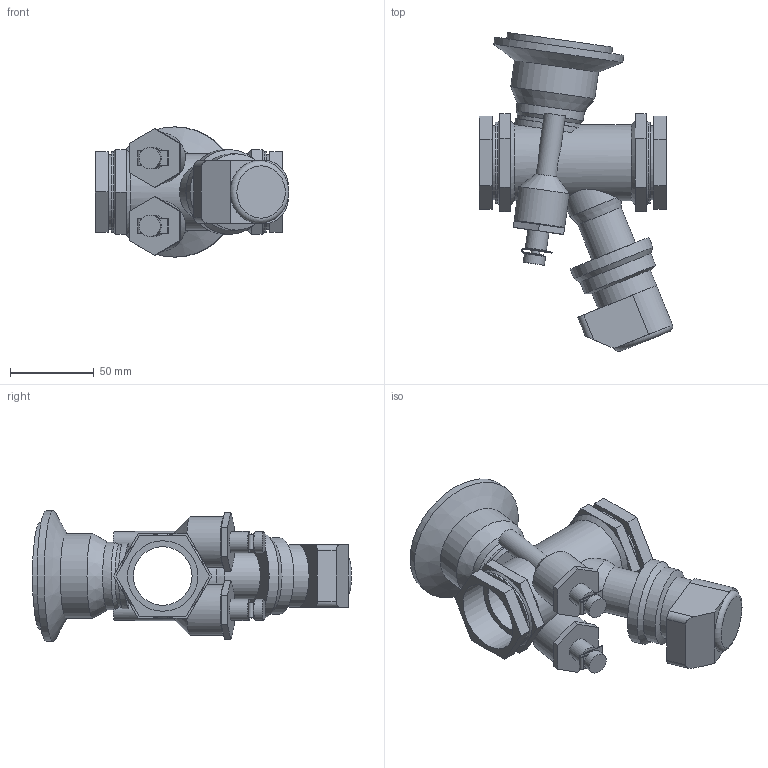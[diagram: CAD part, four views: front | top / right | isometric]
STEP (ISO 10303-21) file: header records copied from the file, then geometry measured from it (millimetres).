
FILE_DESCRIPTION(/* description */ ('VIC BALANCING AND CONTROL VALVE SERIES 7CP (FPT)-EMO 3','CAx-IF Rec.Pracs.---Representation and Presentation of Product Manufacturing Information (PMI)---4.0---2014-10-13'),/* implementation_level */ '2;1');
FILE_NAME(/* name */ 'C:\Users\Vjadhav\AppData\Roaming\Autodesk\ApplicationPlugins\Victaulic.Temp\A633\Victaulic_IPS_Valve Balancing Pressure Independent_TA Series 7CP (FPT)_EMO 3_1.25 (32).stp',/* time_stamp */ '2021-09-14T20:04:14+06:00',/* author */ ('Vjadhav'),/* organization */ ('Victaulic'),/* preprocessor_version */ 'ST-DEVELOPER v17.2',/* originating_system */ 'Autodesk Inventor 2019',/* authorisation */ '');
FILE_SCHEMA (('AP242_MANAGED_MODEL_BASED_3D_ENGINEERING_MIM_LF { 1 0 10303 442 1 1 4 }'));
Length unit declared in the file: inch
Products named in the file (2): 7CP_EMO 3-01.25; 7CP-01.25
Assembly tree (1 placements, depth 2):
  7CP_EMO 3-01.25
    7CP-01.25
Bounding box: 115.7 x 191 x 77.98 mm (x, y, z)
Volume: 323758.7 mm3; surface area: 79309.8 mm2
Topology: 1 solids, 1 shells, 180 faces, 462 edges, 306 vertices
Faces by surface type: plane 118, cylinder 48, cone 13, torus 1
Full cylindrical faces by diameter (mm): 5.08 x6, 12.7 x8, 27.889 x1, 30.48 x2, 35.052 x2, 37.631 x1, 40.64 x1, 42.164 x3, 44.45 x2, 45.72 x2, 48.26 x2, 50.8 x2, 63.5 x1, 77.978 x1
Entity records: 6082 total; most frequent: CARTESIAN_POINT 1233, DIRECTION 997, ORIENTED_EDGE 924, EDGE_CURVE 462, AXIS2_PLACEMENT_3D 373, VERTEX_POINT 306, LINE 251, VECTOR 251
